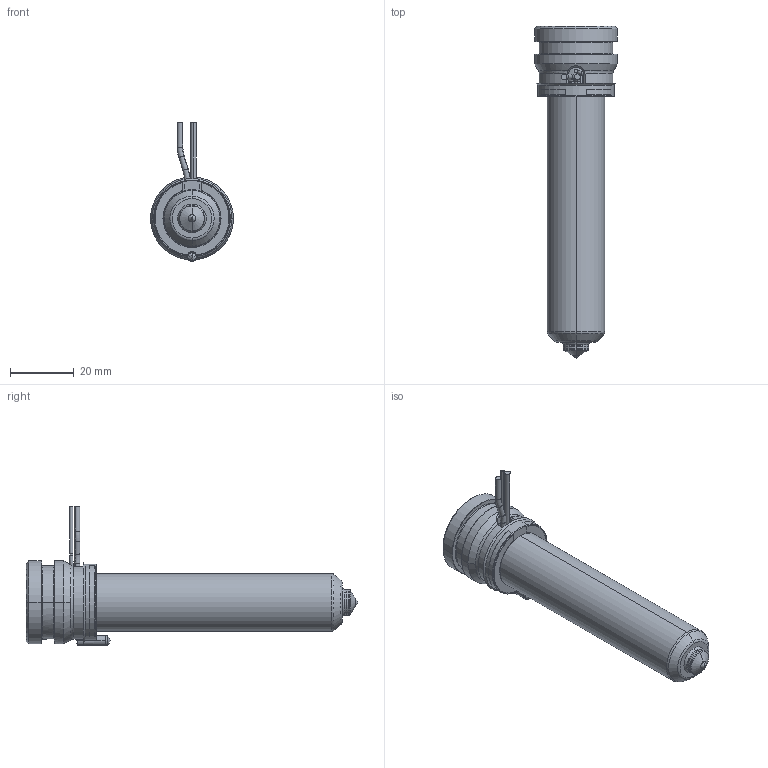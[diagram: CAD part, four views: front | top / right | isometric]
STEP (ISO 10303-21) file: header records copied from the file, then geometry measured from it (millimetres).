
FILE_DESCRIPTION((''),'2;1');
FILE_NAME('MPN-08-24-TS8-086-A','2026-02-05T11:52:43',('UPTIO'),('Thermoplay S.p.A.'),'CREO PARAMETRIC BY PTC INC, 2023494','CREO PARAMETRIC BY PTC INC, 2023494','');
FILE_SCHEMA(('CONFIG_CONTROL_DESIGN','SHAPE_APPEARANCE_LAYERS_GROUPS'));
Length unit declared in the file: millimetre
Products named in the file (1): MPN-08-24-TS8-086-A
Bounding box: 26 x 104 x 43.5 mm (x, y, z)
Volume: 21020.9 mm3; surface area: 26113.9 mm2
Topology: 2 solids, 5 shells, 548 faces, 1437 edges, 892 vertices
Faces by surface type: cylinder 178, plane 146, bspline 82, torus 64, cone 60, sphere 12, extrusion 6
Entity records: 29551 total; most frequent: CARTESIAN_POINT 13378, ORIENTED_EDGE 2854, DIRECTION 2539, EDGE_CURVE 1427, AXIS2_PLACEMENT_3D 992, VERTEX_POINT 892, EDGE_LOOP 575, VECTOR 555
